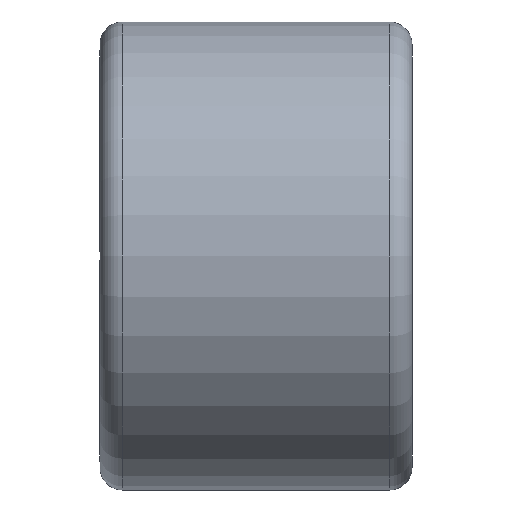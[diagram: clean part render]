
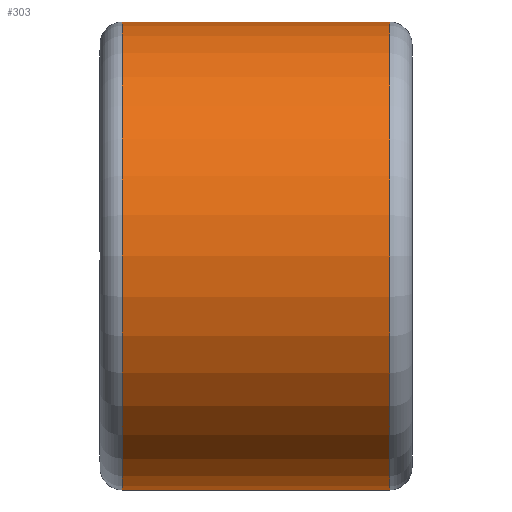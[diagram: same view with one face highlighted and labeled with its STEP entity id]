
A CAD part, front view. The second image highlights one B-rep face of the part: STEP entity #303.
In plain terms, the highlighted cylindrical face has radius 10.5 mm (diameter 21 mm), a full revolution.
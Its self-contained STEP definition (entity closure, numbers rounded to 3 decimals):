
#140=CYLINDRICAL_SURFACE('',#327,10.5);
#148=FACE_BOUND('',#184,.T.);
#164=FACE_OUTER_BOUND('',#183,.T.);
#183=EDGE_LOOP('',(#268));
#184=EDGE_LOOP('',(#269));
#216=CIRCLE('',#326,10.5);
#217=CIRCLE('',#328,10.5);
#233=VERTEX_POINT('',#525);
#234=VERTEX_POINT('',#528);
#250=EDGE_CURVE('',#233,#233,#216,.T.);
#251=EDGE_CURVE('',#234,#234,#217,.T.);
#268=ORIENTED_EDGE('',*,*,#251,.F.);
#269=ORIENTED_EDGE('',*,*,#250,.F.);
#303=ADVANCED_FACE('',(#164,#148),#140,.T.);
#326=AXIS2_PLACEMENT_3D('',#526,#395,#396);
#327=AXIS2_PLACEMENT_3D('',#527,#397,#398);
#328=AXIS2_PLACEMENT_3D('',#529,#399,#400);
#395=DIRECTION('center_axis',(-1.,0.,0.));
#396=DIRECTION('ref_axis',(0.,-1.,0.));
#397=DIRECTION('center_axis',(1.,0.,0.));
#398=DIRECTION('ref_axis',(0.,1.,0.));
#399=DIRECTION('center_axis',(1.,0.,0.));
#400=DIRECTION('ref_axis',(0.,-1.,0.));
#525=CARTESIAN_POINT('',(-6.,10.5,0.));
#526=CARTESIAN_POINT('Origin',(-6.,0.,0.));
#527=CARTESIAN_POINT('Origin',(0.,0.,
0.));
#528=CARTESIAN_POINT('',(6.,10.5,0.));
#529=CARTESIAN_POINT('Origin',(6.,0.,0.));
